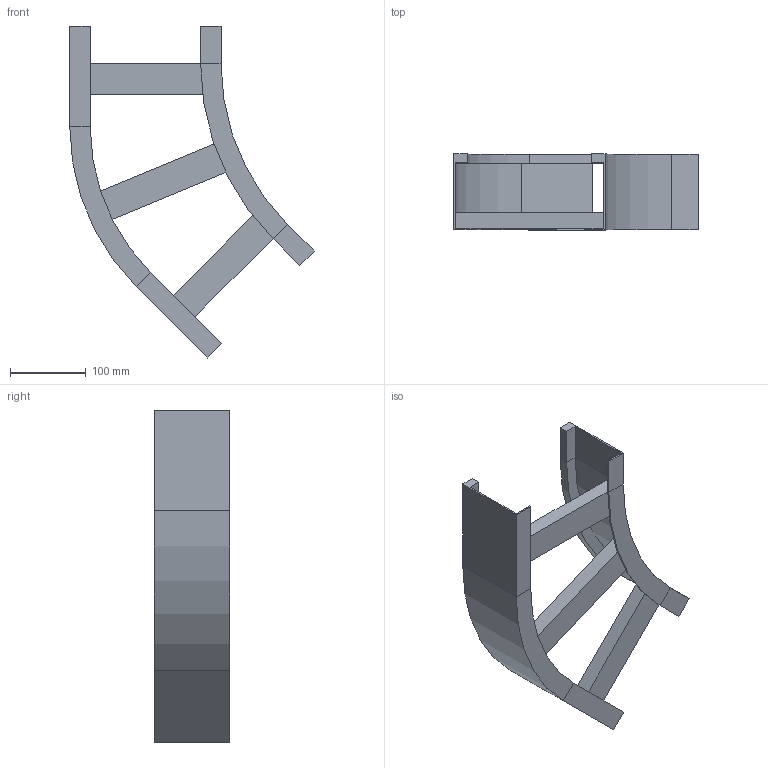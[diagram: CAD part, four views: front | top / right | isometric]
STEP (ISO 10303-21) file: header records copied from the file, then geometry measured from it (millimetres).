
FILE_DESCRIPTION (( 'STEP AP214' ), '1' );
FILE_NAME ('B2_11B3D200.step', '2025-02-21T15:12:50', ( '' ), ( '' ), 'SwSTEP 2.0', 'SolidWorks 2023', '' );
FILE_SCHEMA (( 'AUTOMOTIVE_DESIGN' ));
Length unit declared in the file: millimetre
Products named in the file (5): TRAVERSINO_200; B2_LONGH.INTERNO 45°_H100_R300; TRAVERSINO_L211; B2_LONGH.ESTERNO 45°_H100_R300+200; B2_11B3D200
Assembly tree (5 placements, depth 2):
  B2_11B3D200
    B2_LONGH.INTERNO 45°_H100_R300
    B2_LONGH.ESTERNO 45°_H100_R300+200
    TRAVERSINO_200  x2
    TRAVERSINO_L211
Bounding box: 323.22 x 100 x 438.91 mm (x, y, z)
Volume: 858350.6 mm3; surface area: 318951.4 mm2
Topology: 5 solids, 5 shells, 70 faces, 148 edges, 88 vertices
Faces by surface type: plane 62, cylinder 8
Entity records: 1822 total; most frequent: DIRECTION 296, CARTESIAN_POINT 288, ORIENTED_EDGE 272, EDGE_CURVE 136, VECTOR 120, LINE 120, AXIS2_PLACEMENT_3D 88, VERTEX_POINT 80
